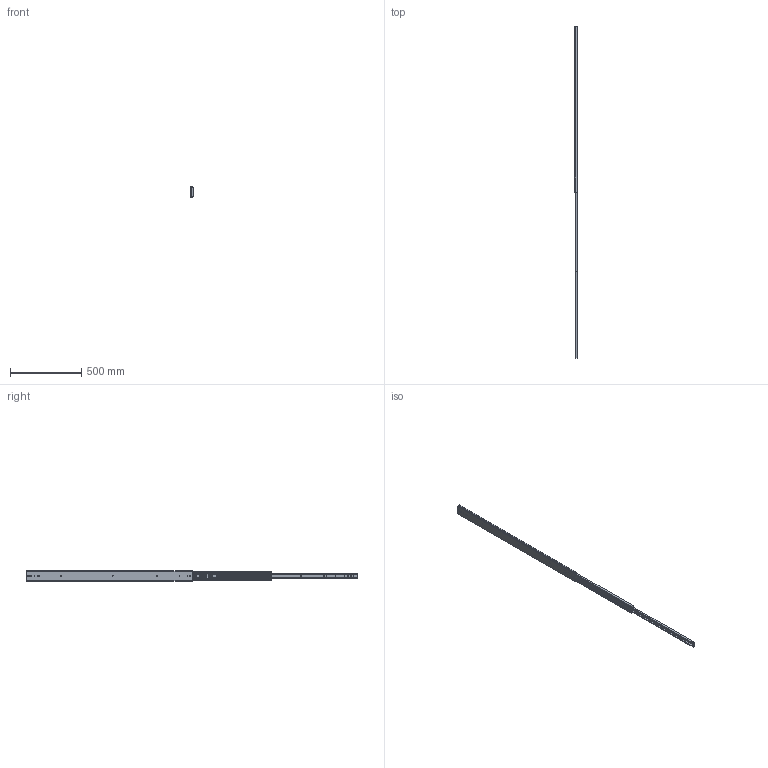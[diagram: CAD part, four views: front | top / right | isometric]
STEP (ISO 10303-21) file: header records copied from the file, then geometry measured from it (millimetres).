
FILE_DESCRIPTION(/* description */ ('Unknown'),/* implementation_level */ '2;1');
FILE_NAME(/* name */ '76J01-46 open',/* time_stamp */ '2024-07-26T16:41:04+08:00',/* author */ ('Unknown'),/* organization */ ('Unknown'),/* preprocessor_version */ 'ST-DEVELOPER v18.104',/* originating_system */ 'Solid Edge',/* authorisation */ 'Unknown');
FILE_SCHEMA (('AUTOMOTIVE_DESIGN {1 0 10303 214 3 1 1}'));
Length unit declared in the file: millimetre
Products named in the file (4): 76J01-46 open; 76J01 46 inch 內_0; 76J01 46 吋中_; 76J01 46 嬪
Assembly tree (3 placements, depth 2):
  76J01-46 open
    76J01 46 inch 內_0
    76J01 46 吋中_
    76J01 46 嬪
Bounding box: 19.3 x 2336.1 x 76.76 mm (x, y, z)
Volume: 921528.1 mm3; surface area: 573249.7 mm2
Topology: 3 solids, 3 shells, 196 faces, 605 edges, 409 vertices
Faces by surface type: plane 104, cylinder 92
Full cylindrical faces by diameter (mm): 5.2 x15, 7.1 x2
Entity records: 7180 total; most frequent: CARTESIAN_POINT 1166, DIRECTION 1155, ORIENTED_EDGE 1142, EDGE_CURVE 571, VERTEX_POINT 392, LINE 385, VECTOR 385, AXIS2_PLACEMENT_3D 385
